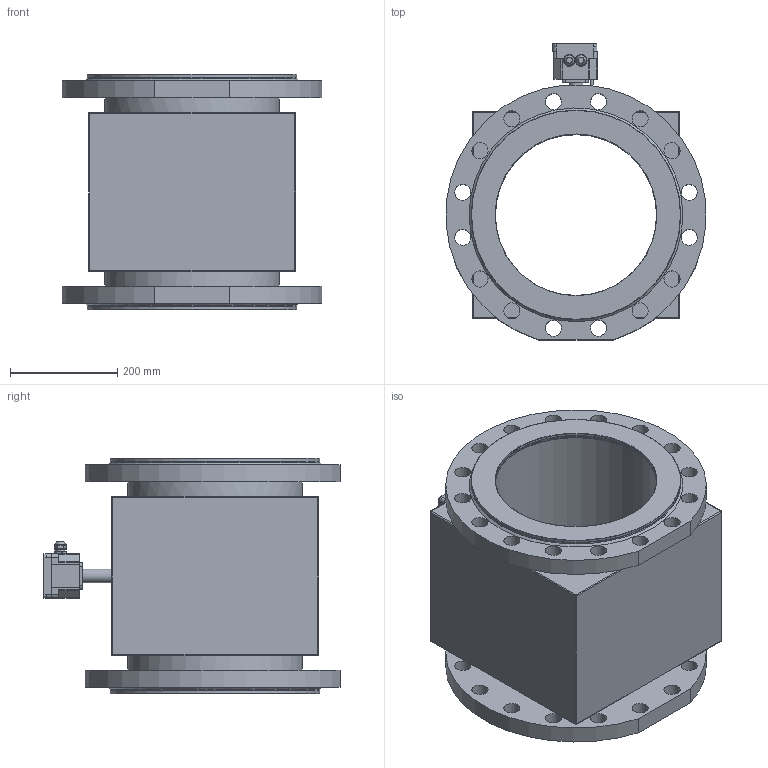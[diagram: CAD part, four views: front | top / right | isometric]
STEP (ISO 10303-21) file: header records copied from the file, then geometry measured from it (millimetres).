
FILE_DESCRIPTION(/* description */ (''),/* implementation_level */ '2;1');
FILE_NAME(/* name */ 'G:\ТЭК\01 Михайлычев\ПРЭМ\Модели для сайта\2,45 МПа\300F\ПРЭМ-300F.stp',/* time_stamp */ '2022-07-06T12:02:26+03:00',/* author */ ('d.mihailichev'),/* organization */ (''),/* preprocessor_version */ 'ST-DEVELOPER v18',/* originating_system */ 'Autodesk Inventor 2020',/* authorisation */ '');
FILE_SCHEMA (('AUTOMOTIVE_DESIGN { 1 0 10303 214 3 1 1 }'));
Products named in the file (1): ПРЭМ-300F
Bounding box: 483.74 x 551 x 438 mm (x, y, z)
Volume: 29587538.6 mm3; surface area: 1867498.2 mm2
Topology: 4 solids, 14 shells, 2317 faces, 6093 edges, 3908 vertices
Faces by surface type: plane 1380, bspline 449, cylinder 377, sphere 68, cone 25, torus 18
Full cylindrical faces by diameter (mm): 0.431 x1, 0.546 x1, 1.159 x2, 1.5 x2, 1.7 x4, 1.8 x8, 2.5 x4, 3 x1, 3.242 x8, 4 x4, 4.5 x4, 4.7 x4, 5 x1, 5.472 x1, 5.5 x7, 7 x4, 7.5 x4, 8.5 x4, 11 x8, 12 x2, 13 x2, 15 x1, 17 x7, 19.094 x2, 20.5 x1, 21 x1, 21.2 x1, 25 x1, 25.1 x1, 26 x1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
Entity records: 79306 total; most frequent: CARTESIAN_POINT 22594, ORIENTED_EDGE 11972, DIRECTION 9786, EDGE_CURVE 5990, LINE 4010, VECTOR 4010, VERTEX_POINT 3887, AXIS2_PLACEMENT_3D 2888
